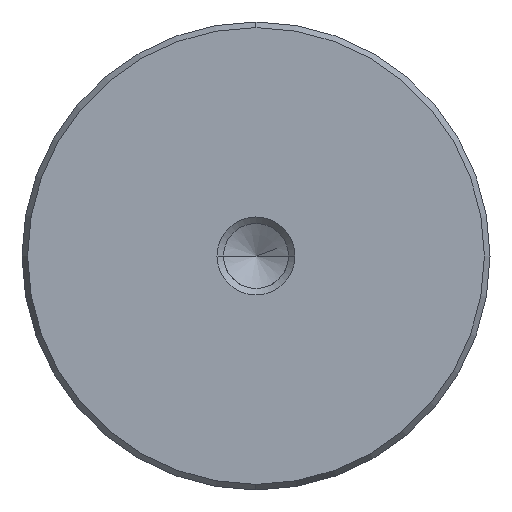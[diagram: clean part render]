
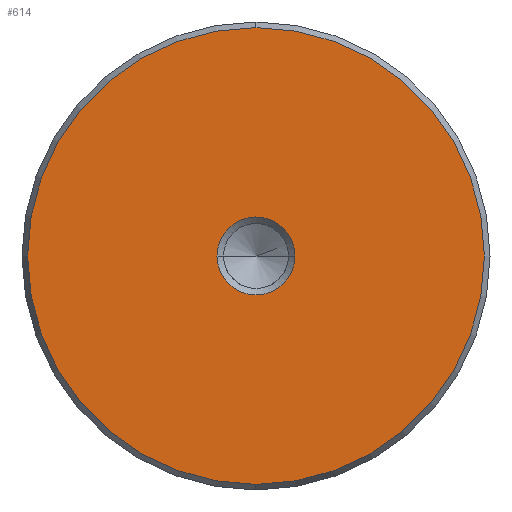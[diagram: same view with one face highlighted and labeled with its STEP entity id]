
A CAD part, left-side view. The second image highlights one B-rep face of the part: STEP entity #614.
In plain terms, the highlighted planar face has unit normal (-1, 0, 0).
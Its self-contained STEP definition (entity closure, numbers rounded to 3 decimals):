
#528=CARTESIAN_POINT('Vertex',(0.,0.,-23.423)) ;
#531=CARTESIAN_POINT('Axis2P3D Location',(0.,0.,0.)) ;
#535=CARTESIAN_POINT('Vertex',(0.,23.423,0.)) ;
#538=CARTESIAN_POINT('Axis2P3D Location',(0.,0.,0.)) ;
#542=CARTESIAN_POINT('Vertex',(0.,0.,23.423)) ;
#564=CARTESIAN_POINT('Axis2P3D Location',(0.,0.,0.)) ;
#568=CARTESIAN_POINT('Vertex',(0.,-23.423,0.)) ;
#571=CARTESIAN_POINT('Axis2P3D Location',(0.,0.,0.)) ;
#585=CARTESIAN_POINT('Axis2P3D Location',(0.,0.,0.)) ;
#596=CARTESIAN_POINT('Axis2P3D Location',(0.,0.,0.)) ;
#600=CARTESIAN_POINT('Vertex',(0.,4.,0.)) ;
#602=CARTESIAN_POINT('Vertex',(0.,-4.,0.)) ;
#605=CARTESIAN_POINT('Axis2P3D Location',(0.,0.,0.)) ;
#532=DIRECTION('Axis2P3D Direction',(1.,0.,-0.)) ;
#539=DIRECTION('Axis2P3D Direction',(1.,0.,-0.)) ;
#565=DIRECTION('Axis2P3D Direction',(1.,0.,-0.)) ;
#572=DIRECTION('Axis2P3D Direction',(1.,0.,-0.)) ;
#586=DIRECTION('Axis2P3D Direction',(1.,0.,-0.)) ;
#587=DIRECTION('Axis2P3D XDirection',(-0.,0.,-1.)) ;
#597=DIRECTION('Axis2P3D Direction',(1.,0.,-0.)) ;
#606=DIRECTION('Axis2P3D Direction',(1.,0.,-0.)) ;
#533=AXIS2_PLACEMENT_3D('Circle Axis2P3D',#531,#532,$) ;
#540=AXIS2_PLACEMENT_3D('Circle Axis2P3D',#538,#539,$) ;
#566=AXIS2_PLACEMENT_3D('Circle Axis2P3D',#564,#565,$) ;
#573=AXIS2_PLACEMENT_3D('Circle Axis2P3D',#571,#572,$) ;
#588=AXIS2_PLACEMENT_3D('Plane Axis2P3D',#585,#586,#587) ;
#598=AXIS2_PLACEMENT_3D('Circle Axis2P3D',#596,#597,$) ;
#607=AXIS2_PLACEMENT_3D('Circle Axis2P3D',#605,#606,$) ;
#591=ORIENTED_EDGE('',*,*,#537,.F.) ;
#592=ORIENTED_EDGE('',*,*,#575,.F.) ;
#593=ORIENTED_EDGE('',*,*,#570,.F.) ;
#594=ORIENTED_EDGE('',*,*,#544,.F.) ;
#611=ORIENTED_EDGE('',*,*,#604,.T.) ;
#612=ORIENTED_EDGE('',*,*,#609,.T.) ;
#613=FACE_BOUND('',#610,.T.) ;
#614=ADVANCED_FACE('720-48x250',(#595,#613),#589,.F.) ;
#534=CIRCLE('generated circle',#533,23.423) ;
#541=CIRCLE('generated circle',#540,23.423) ;
#567=CIRCLE('generated circle',#566,23.423) ;
#574=CIRCLE('generated circle',#573,23.423) ;
#599=CIRCLE('generated circle',#598,4.) ;
#608=CIRCLE('generated circle',#607,4.) ;
#537=EDGE_CURVE('',#529,#536,#534,.T.) ;
#544=EDGE_CURVE('',#536,#543,#541,.T.) ;
#570=EDGE_CURVE('',#543,#569,#567,.T.) ;
#575=EDGE_CURVE('',#569,#529,#574,.T.) ;
#604=EDGE_CURVE('',#601,#603,#599,.T.) ;
#609=EDGE_CURVE('',#603,#601,#608,.T.) ;
#590=EDGE_LOOP('',(#591,#592,#593,#594)) ;
#610=EDGE_LOOP('',(#611,#612)) ;
#595=FACE_OUTER_BOUND('',#590,.T.) ;
#589=PLANE('Plane',#588) ;
#529=VERTEX_POINT('',#528) ;
#536=VERTEX_POINT('',#535) ;
#543=VERTEX_POINT('',#542) ;
#569=VERTEX_POINT('',#568) ;
#601=VERTEX_POINT('',#600) ;
#603=VERTEX_POINT('',#602) ;
